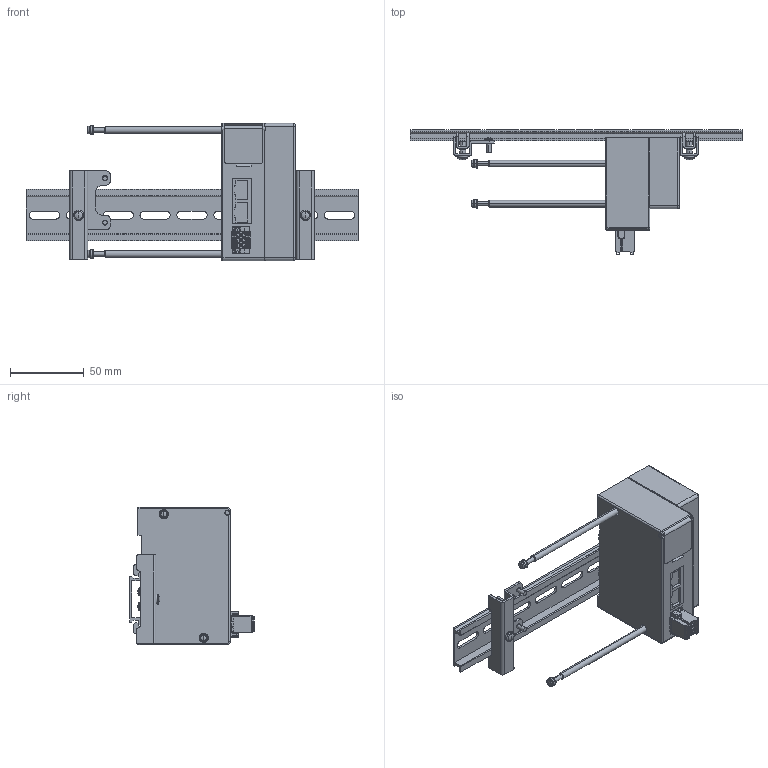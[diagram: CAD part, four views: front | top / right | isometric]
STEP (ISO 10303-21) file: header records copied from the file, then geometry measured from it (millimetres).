
FILE_DESCRIPTION( (''), '2;1');
FILE_NAME ('YS8EM3-4-DR.stp','2022-12-01T14:43:20',(''),(''),'spGate 12.6.6','','');
FILE_SCHEMA (('AUTOMOTIVE_DESIGN'));
Length unit declared in the file: millimetre
Products named in the file (4): Assembly; YS8EM3-4-DR-prt0; YS8EM3-4-DR-prt1; YS8EM3-4-DR-prt2
Assembly tree (4 placements, depth 2):
  Assembly
    YS8EM3-4-DR-prt0
    YS8EM3-4-DR-prt1
    YS8EM3-4-DR-prt2  x2
Bounding box: 225 x 84.4 x 93 mm (x, y, z)
Volume: 282458.1 mm3; surface area: 68851.7 mm2
Topology: 4 solids, 4 shells, 1027 faces, 2703 edges, 1737 vertices
Faces by surface type: plane 599, cylinder 330, bspline 82, sphere 16
Entity records: 47128 total; most frequent: CARTESIAN_POINT 6353, ORIENTED_EDGE 4684, DIRECTION 4442, COLOUR_RGB 3241, PRESENTATION_STYLE_ASSIGNMENT 3241, STYLED_ITEM 3241, EDGE_CURVE 2342, DRAUGHTING_PRE_DEFINED_CURVE_FONT 2342
